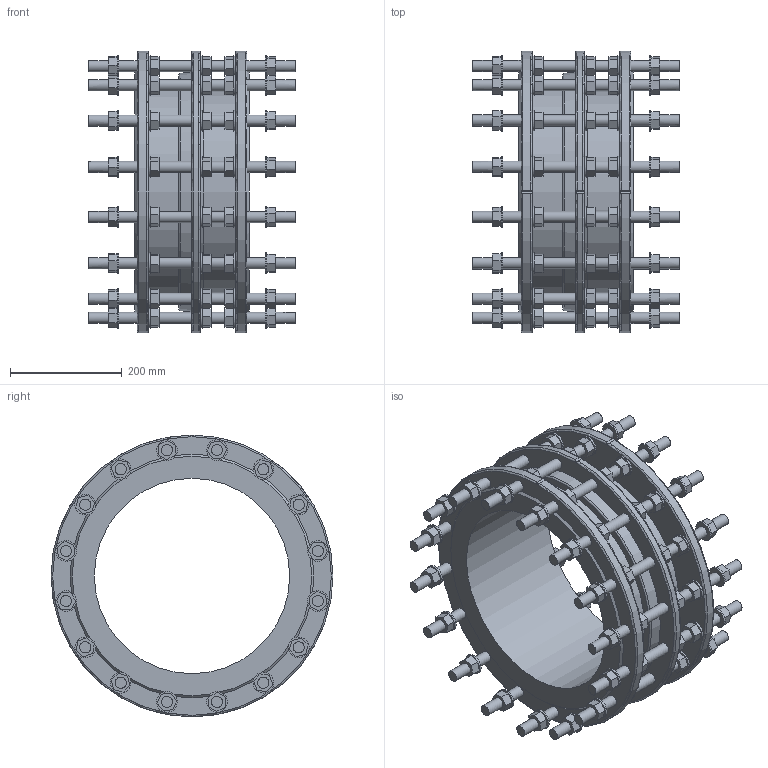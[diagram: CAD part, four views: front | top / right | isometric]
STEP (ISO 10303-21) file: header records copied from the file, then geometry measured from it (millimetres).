
FILE_DESCRIPTION (( 'STEP AP203' ), '1' );
FILE_NAME ('O_265_911_DN350_0XXXXX01_L=205_REV01.step', '2024-12-12T08:00:26', ( '' ), ( '' ), 'SwSTEP 2.0', 'SolidWorks 2022', '' );
FILE_SCHEMA (( 'CONFIG_CONTROL_DESIGN' ));
Length unit declared in the file: millimetre
Products named in the file (1): O_265_911_DN350_0XXXXX01_L=205_REV01
Bounding box: 370 x 505 x 504.96 mm (x, y, z)
Volume: 11709376.7 mm3; surface area: 1438619.9 mm2
Topology: 1 solids, 1 shells, 970 faces, 2277 edges, 1544 vertices
Faces by surface type: plane 768, cylinder 188, torus 11, cone 3
Full cylindrical faces by diameter (mm): 20 x96, 37 x80, 350 x1, 365 x2, 395 x1
Entity records: 26330 total; most frequent: CARTESIAN_POINT 4730, DIRECTION 4307, ORIENTED_EDGE 3986, EDGE_CURVE 1993, VECTOR 1573, LINE 1573, EDGE_LOOP 1457, VERTEX_POINT 1446
